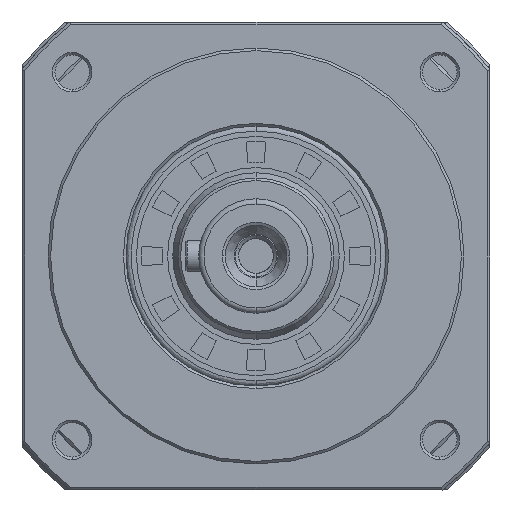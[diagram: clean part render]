
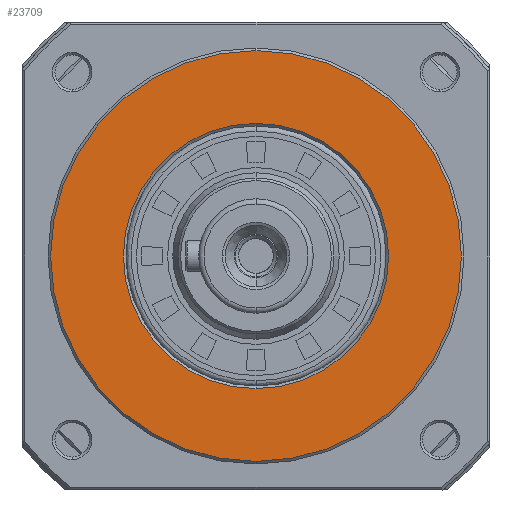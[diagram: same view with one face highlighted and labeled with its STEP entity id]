
A CAD part, left-side view. The second image highlights one B-rep face of the part: STEP entity #23709.
In plain terms, the highlighted planar face has unit normal (-1, 0, 0).
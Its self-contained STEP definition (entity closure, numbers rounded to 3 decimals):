
#934 = AXIS2_PLACEMENT_3D ( 'NONE', #78464, #86248, #41680 ) ;
#4031 = DIRECTION ( 'NONE',  ( -1., 0., 0. ) ) ;
#5403 = EDGE_CURVE ( 'NONE', #19386, #22288, #44550, .T. ) ;
#5914 = EDGE_LOOP ( 'NONE', ( #68273, #52763 ) ) ;
#7675 = CARTESIAN_POINT ( 'NONE',  ( 0., -39.974, 39.974 ) ) ;
#10571 = AXIS2_PLACEMENT_3D ( 'NONE', #94572, #79316, #79638 ) ;
#13250 = CARTESIAN_POINT ( 'NONE',  ( 0., 0., -25.5 ) ) ;
#19386 = VERTEX_POINT ( 'NONE', #13250 ) ;
#19745 = PLANE ( 'NONE',  #69338 ) ;
#20565 = ORIENTED_EDGE ( 'NONE', *, *, #38689, .F. ) ;
#21432 = CARTESIAN_POINT ( 'NONE',  ( 0., 0., 25.5 ) ) ;
#22288 = VERTEX_POINT ( 'NONE', #21432 ) ;
#23709 = ADVANCED_FACE ( 'NONE', ( #58544, #27094 ), #19745, .F. ) ;
#25547 = DIRECTION ( 'NONE',  ( -1., 0., 0. ) ) ;
#25633 = EDGE_CURVE ( 'NONE', #82826, #63905, #83829, .T. ) ;
#27094 = FACE_OUTER_BOUND ( 'NONE', #5914, .T. ) ;
#27634 = EDGE_LOOP ( 'NONE', ( #20565, #94548 ) ) ;
#29683 = AXIS2_PLACEMENT_3D ( 'NONE', #76340, #25547, #77651 ) ;
#33662 = CARTESIAN_POINT ( 'NONE',  ( 0., 0., 0. ) ) ;
#38689 = EDGE_CURVE ( 'NONE', #22288, #19386, #74226, .T. ) ;
#41680 = DIRECTION ( 'NONE',  ( 0., 0., -1. ) ) ;
#44550 = CIRCLE ( 'NONE', #10571, 25.5 ) ;
#48005 = DIRECTION ( 'NONE',  ( 0., 0., 1. ) ) ;
#52763 = ORIENTED_EDGE ( 'NONE', *, *, #83205, .T. ) ;
#57662 = AXIS2_PLACEMENT_3D ( 'NONE', #33662, #4031, #48005 ) ;
#58544 = FACE_BOUND ( 'NONE', #27634, .T. ) ;
#63905 = VERTEX_POINT ( 'NONE', #83945 ) ;
#66580 = DIRECTION ( 'NONE',  ( 0., 0., -1. ) ) ;
#68273 = ORIENTED_EDGE ( 'NONE', *, *, #25633, .T. ) ;
#69338 = AXIS2_PLACEMENT_3D ( 'NONE', #7675, #96505, #66580 ) ;
#74226 = CIRCLE ( 'NONE', #57662, 25.5 ) ;
#76340 = CARTESIAN_POINT ( 'NONE',  ( 0., 0., 0. ) ) ;
#77651 = DIRECTION ( 'NONE',  ( 0., 0., -1. ) ) ;
#78464 = CARTESIAN_POINT ( 'NONE',  ( 0., 0., 0. ) ) ;
#79316 = DIRECTION ( 'NONE',  ( -1., 0., 0. ) ) ;
#79638 = DIRECTION ( 'NONE',  ( 0., 0., 1. ) ) ;
#82826 = VERTEX_POINT ( 'NONE', #83918 ) ;
#83205 = EDGE_CURVE ( 'NONE', #63905, #82826, #88399, .T. ) ;
#83829 = CIRCLE ( 'NONE', #934, 39.5 ) ;
#83918 = CARTESIAN_POINT ( 'NONE',  ( 0., 0., -39.5 ) ) ;
#83945 = CARTESIAN_POINT ( 'NONE',  ( 0., 0., 39.5 ) ) ;
#86248 = DIRECTION ( 'NONE',  ( -1., 0., 0. ) ) ;
#88399 = CIRCLE ( 'NONE', #29683, 39.5 ) ;
#94548 = ORIENTED_EDGE ( 'NONE', *, *, #5403, .F. ) ;
#94572 = CARTESIAN_POINT ( 'NONE',  ( 0., 0., 0. ) ) ;
#96505 = DIRECTION ( 'NONE',  ( 1., 0., 0. ) ) ;
